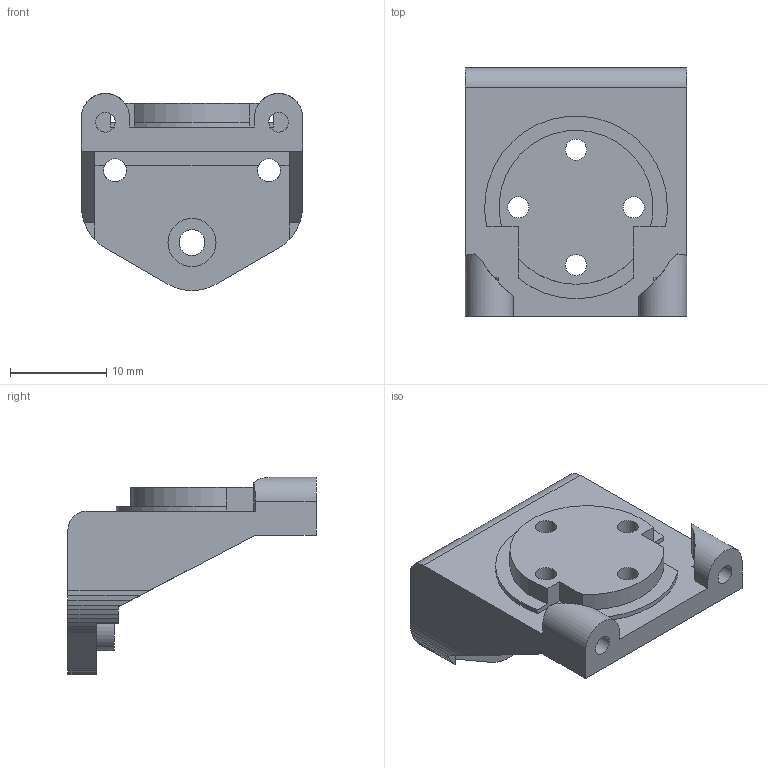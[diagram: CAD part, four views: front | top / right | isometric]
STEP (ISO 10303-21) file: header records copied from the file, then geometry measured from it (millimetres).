
FILE_DESCRIPTION(('FreeCAD Model'),'2;1');
FILE_NAME('Open CASCADE Shape Model','2026-09-09T20:58:36',('Author'),( ''),'Open CASCADE STEP processor 7.8','FreeCAD','Unknown');
FILE_SCHEMA(('AUTOMOTIVE_DESIGN { 1 0 10303 214 1 1 1 1 }'));
Length unit declared in the file: millimetre
Products named in the file (1): microduck-yaw2roll
Bounding box: 23 x 25.8 x 20.5 mm (x, y, z)
Volume: 2831.5 mm3; surface area: 2878.8 mm2
Topology: 1 solids, 1 shells, 118 faces, 365 edges, 254 vertices
Faces by surface type: plane 94, cylinder 24
Full cylindrical faces by diameter (mm): 2.05 x2, 2.2 x4, 2.4 x2, 2.7 x1, 4.4 x4, 4.84 x2, 5 x1, 5.5 x1
Entity records: 4185 total; most frequent: CARTESIAN_POINT 738, ORIENTED_EDGE 730, DIRECTION 717, EDGE_CURVE 365, VERTEX_POINT 254, LINE 251, VECTOR 251, AXIS2_PLACEMENT_3D 233
